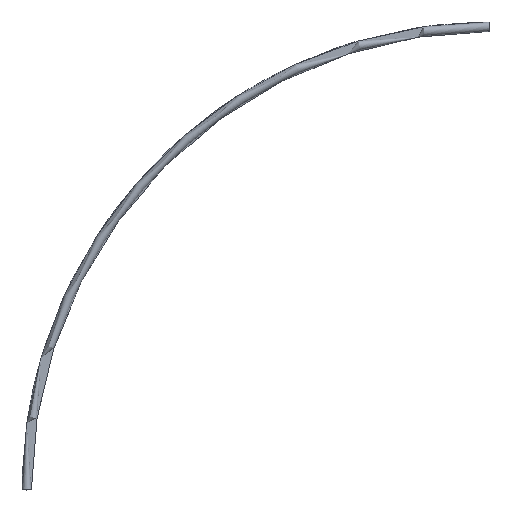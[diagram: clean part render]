
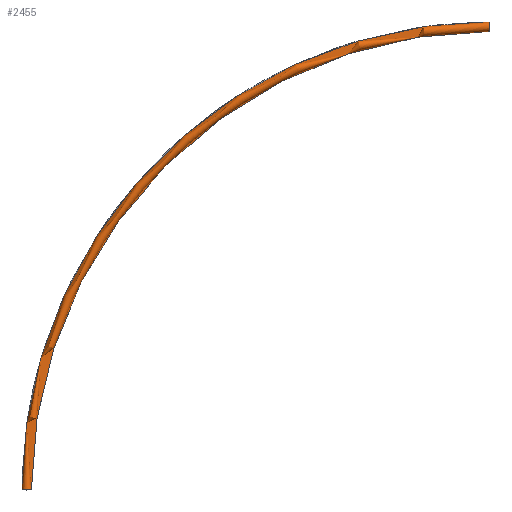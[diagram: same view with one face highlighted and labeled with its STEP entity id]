
A CAD part, top view. The second image highlights one B-rep face of the part: STEP entity #2455.
In plain terms, the highlighted toroidal (fillet/blend) face has major radius 2475 mm and minor radius 25 mm.
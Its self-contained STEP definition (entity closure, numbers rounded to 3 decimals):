
#470 = CIRCLE ( 'NONE', #504, 25. ) ;
#500 = CARTESIAN_POINT ( 'NONE',  ( -2450., 0., 0. ) ) ;
#501 = DIRECTION ( 'NONE',  ( 0., 0., 1. ) ) ;
#502 = DIRECTION ( 'NONE',  ( 0., 1., 0. ) ) ;
#503 = CARTESIAN_POINT ( 'NONE',  ( -2475., 0., 0. ) ) ;
#504 = AXIS2_PLACEMENT_3D ( 'NONE', #503, #502, #501 ) ;
#745 = CARTESIAN_POINT ( 'NONE',  ( 0., 2500., 0. ) ) ;
#746 = DIRECTION ( 'NONE',  ( 0., 0., 1. ) ) ;
#747 = DIRECTION ( 'NONE',  ( 1., 0., 0. ) ) ;
#748 = CARTESIAN_POINT ( 'NONE',  ( 0., 2475., 0. ) ) ;
#749 = AXIS2_PLACEMENT_3D ( 'NONE', #748, #747, #746 ) ;
#750 = CIRCLE ( 'NONE', #749, 25. ) ;
#758 = DIRECTION ( 'NONE',  ( 1., 0., 0. ) ) ;
#759 = DIRECTION ( 'NONE',  ( 0., 0., 1. ) ) ;
#760 = CARTESIAN_POINT ( 'NONE',  ( 0., 0., 0. ) ) ;
#761 = AXIS2_PLACEMENT_3D ( 'NONE', #760, #759, #758 ) ;
#764 = CIRCLE ( 'NONE', #761, 2450. ) ;
#851 = DIRECTION ( 'NONE',  ( 0., 0., 1. ) ) ;
#852 = TOROIDAL_SURFACE ( 'NONE', #903, 2475., 25. ) ;
#863 = FACE_OUTER_BOUND ( 'NONE', #2427, .T. ) ;
#875 = DIRECTION ( 'NONE',  ( 1., 0., 0. ) ) ;
#882 = CARTESIAN_POINT ( 'NONE',  ( -2500., 0., 0. ) ) ;
#902 = CARTESIAN_POINT ( 'NONE',  ( 0., 0., 0. ) ) ;
#903 = AXIS2_PLACEMENT_3D ( 'NONE', #902, #851, #875 ) ;
#986 = DIRECTION ( 'NONE',  ( 1., 0., 0. ) ) ;
#987 = DIRECTION ( 'NONE',  ( 0., 0., 1. ) ) ;
#988 = CARTESIAN_POINT ( 'NONE',  ( 0., 0., 0. ) ) ;
#989 = AXIS2_PLACEMENT_3D ( 'NONE', #988, #987, #986 ) ;
#990 = CIRCLE ( 'NONE', #989, 2500. ) ;
#1134 = CARTESIAN_POINT ( 'NONE',  ( 0., 2450., 0. ) ) ;
#2399 = EDGE_CURVE ( 'NONE', #2521, #2400, #470, .T. ) ;
#2400 = VERTEX_POINT ( 'NONE', #500 ) ;
#2401 = ORIENTED_EDGE ( 'NONE', *, *, #2413, .F. ) ;
#2413 = EDGE_CURVE ( 'NONE', #2567, #2400, #764, .T. ) ;
#2417 = EDGE_CURVE ( 'NONE', #2418, #2567, #750, .T. ) ;
#2418 = VERTEX_POINT ( 'NONE', #745 ) ;
#2427 = EDGE_LOOP ( 'NONE', ( #2478, #2453, #2562, #2401 ) ) ;
#2453 = ORIENTED_EDGE ( 'NONE', *, *, #2479, .T. ) ;
#2455 = ADVANCED_FACE ( 'NONE', ( #863 ), #852, .T. ) ;
#2478 = ORIENTED_EDGE ( 'NONE', *, *, #2417, .F. ) ;
#2479 = EDGE_CURVE ( 'NONE', #2418, #2521, #990, .T. ) ;
#2521 = VERTEX_POINT ( 'NONE', #882 ) ;
#2562 = ORIENTED_EDGE ( 'NONE', *, *, #2399, .T. ) ;
#2567 = VERTEX_POINT ( 'NONE', #1134 ) ;
